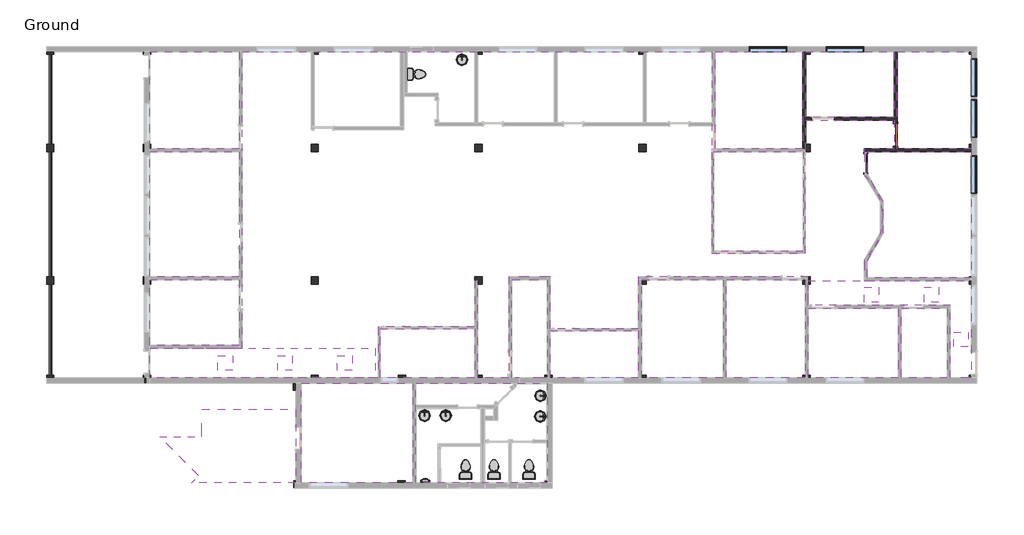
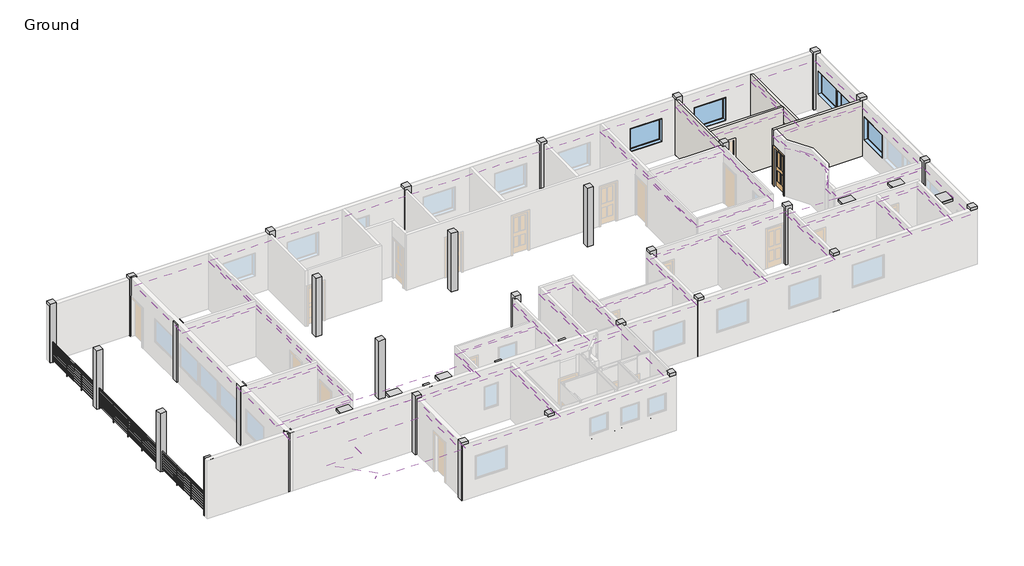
# One storey, part 4 of 4: 34 columns, 21 coverings, 10 flow terminals, 6 light fixtures, 5 windows, 4 walls, 3 railings, 2 doors.
"""IFC4 building model written with IfcOpenShell, lengths in millimetres."""

from ifc_helpers import new_model, si_unit, point, frame, frame_2d, origin, place, context, project, spatial, polyline, circle_curve, trimmed, segment, composite_curve, outline, extrude, faceted_brep, transform, mapped, element, save
from components import concrete_square_column_12_x_12_d780e21f, door_43f271b1, door_bfc1a142, m_toilet_domestic_3d_m_toilet_domestic_3d_5cb52bd4, m_toilet_domestic_3d_m_toilet_domestic_3d_183bbd19, flow_terminal_5184717d, urinal_wall_3d_urinal_wall_3d_aeedfa41, m_troffer_lens_0600_x_0600mm_2_lamp_a75f89fe, guardrail_pipe_4b02b070, guardrail_pipe_bb2e5a77, guardrail_pipe_0a43caf4, window_a0bf6c86

model = new_model("IFC4")

# Units and contexts
model_context = context("Model", 3, world=origin())
ifc_project = project(units=[si_unit("LENGTHUNIT", "METRE", prefix="MILLI")], contexts=[model_context])

# Site, building, storey
site = spatial("IfcSite", under=ifc_project)
building = spatial("IfcBuilding", under=site)
storey = spatial("IfcBuildingStorey", under=building, Name="Ground", Elevation=0.0)

# Columns
placement = place(None, origin())
concrete_square_column_12_x_12_shape = concrete_square_column_12_x_12_d780e21f(model_context)
element("IfcColumn", 1, ObjectType="Concrete-Square-Column : 12 x 12", at=placement, inside=storey, context=model_context, shape_type="MappedRepresentation", body=[
    mapped(concrete_square_column_12_x_12_shape, transform((-39928.402824, 22361.49779, 0.0), x_axis=(1.0, 0.0, 0.0), y_axis=(0.0, 1.0, 0.0), z_axis=(0.0, 0.0, 1.0))),
])
element("IfcColumn", 2, ObjectType="Concrete-Square-Column : 12 x 12", at=placement, inside=storey, context=model_context, shape_type="MappedRepresentation", body=[
    mapped(concrete_square_column_12_x_12_shape, transform((-33070.402824, 22361.49779, 0.0), x_axis=(1.0, 0.0, 0.0), y_axis=(0.0, 1.0, 0.0), z_axis=(0.0, 0.0, 1.0))),
])
element("IfcColumn", 3, ObjectType="Concrete-Square-Column : 12 x 12", at=placement, inside=storey, context=model_context, shape_type="MappedRepresentation", body=[
    mapped(concrete_square_column_12_x_12_shape, transform((-26364.802824, 22361.49779, 0.0), x_axis=(1.0, 0.0, 0.0), y_axis=(0.0, 1.0, 0.0), z_axis=(0.0, 0.0, 1.0))),
])
element("IfcColumn", 4, ObjectType="Concrete-Square-Column : 12 x 12", at=placement, inside=storey, context=model_context, shape_type="MappedRepresentation", body=[
    mapped(concrete_square_column_12_x_12_shape, transform((-19659.202824, 22361.49779, 0.0), x_axis=(1.0, 0.0, 0.0), y_axis=(0.0, 1.0, 0.0), z_axis=(0.0, 0.0, 1.0))),
])
element("IfcColumn", 5, ObjectType="Concrete-Square-Column : 12 x 12", at=placement, inside=storey, context=model_context, shape_type="MappedRepresentation", body=[
    mapped(concrete_square_column_12_x_12_shape, transform((-12953.602824, 22361.49779, 0.0), x_axis=(1.0, 0.0, 0.0), y_axis=(0.0, 1.0, 0.0), z_axis=(0.0, 0.0, 1.0))),
])
element("IfcColumn", 6, ObjectType="Concrete-Square-Column : 12 x 12", at=placement, inside=storey, context=model_context, shape_type="MappedRepresentation", body=[
    mapped(concrete_square_column_12_x_12_shape, transform((-6151.165324, 22361.49779, 0.0), x_axis=(1.0, 0.0, 0.0), y_axis=(0.0, 1.0, 0.0), z_axis=(0.0, 0.0, 1.0))),
])
element("IfcColumn", 7, ObjectType="Concrete-Square-Column : 12 x 12", at=placement, inside=storey, context=model_context, shape_type="MappedRepresentation", body=[
    mapped(concrete_square_column_12_x_12_shape, transform((-39928.402824, 18378.46029, 0.0), x_axis=(1.0, 0.0, 0.0), y_axis=(0.0, 1.0, 0.0), z_axis=(0.0, 0.0, 1.0))),
])
element("IfcColumn", 8, ObjectType="Concrete-Square-Column : 12 x 12", at=placement, inside=storey, context=model_context, shape_type="MappedRepresentation", body=[
    mapped(concrete_square_column_12_x_12_shape, transform((-39928.402824, 12965.08529, 0.0), x_axis=(1.0, 0.0, 0.0), y_axis=(0.0, 1.0, 0.0), z_axis=(0.0, 0.0, 1.0))),
])
element("IfcColumn", 9, ObjectType="Concrete-Square-Column : 12 x 12", at=placement, inside=storey, context=model_context, shape_type="MappedRepresentation", body=[
    mapped(concrete_square_column_12_x_12_shape, transform((-39928.402824, 8918.54779, 0.0), x_axis=(1.0, 0.0, 0.0), y_axis=(0.0, 1.0, 0.0), z_axis=(0.0, 0.0, 1.0))),
])
element("IfcColumn", 10, ObjectType="Concrete-Square-Column : 12 x 12", at=placement, inside=storey, context=model_context, shape_type="MappedRepresentation", body=[
    mapped(concrete_square_column_12_x_12_shape, transform((-33070.402824, 8918.54779, 0.0), x_axis=(1.0, 0.0, 0.0), y_axis=(0.0, 1.0, 0.0), z_axis=(0.0, 0.0, 1.0))),
])
element("IfcColumn", 11, ObjectType="Concrete-Square-Column : 12 x 12", at=placement, inside=storey, context=model_context, shape_type="MappedRepresentation", body=[
    mapped(concrete_square_column_12_x_12_shape, transform((-33070.402824, 12965.08529, 0.0), x_axis=(1.0, 0.0, 0.0), y_axis=(0.0, 1.0, 0.0), z_axis=(0.0, 0.0, 1.0))),
])
element("IfcColumn", 12, ObjectType="Concrete-Square-Column : 12 x 12", at=placement, inside=storey, context=model_context, shape_type="MappedRepresentation", body=[
    mapped(concrete_square_column_12_x_12_shape, transform((-26364.802824, 12965.08529, 0.0), x_axis=(1.0, 0.0, 0.0), y_axis=(0.0, 1.0, 0.0), z_axis=(0.0, 0.0, 1.0))),
])
element("IfcColumn", 13, ObjectType="Concrete-Square-Column : 12 x 12", at=placement, inside=storey, context=model_context, shape_type="MappedRepresentation", body=[
    mapped(concrete_square_column_12_x_12_shape, transform((-26364.802824, 8918.54779, 0.0), x_axis=(1.0, 0.0, 0.0), y_axis=(0.0, 1.0, 0.0), z_axis=(0.0, 0.0, 1.0))),
])
element("IfcColumn", 14, ObjectType="Concrete-Square-Column : 12 x 12", at=placement, inside=storey, context=model_context, shape_type="MappedRepresentation", body=[
    mapped(concrete_square_column_12_x_12_shape, transform((-19659.202824, 8918.54779, 0.0), x_axis=(1.0, 0.0, 0.0), y_axis=(0.0, 1.0, 0.0), z_axis=(0.0, 0.0, 1.0))),
])
element("IfcColumn", 15, ObjectType="Concrete-Square-Column : 12 x 12", at=placement, inside=storey, context=model_context, shape_type="MappedRepresentation", body=[
    mapped(concrete_square_column_12_x_12_shape, transform((-19659.202824, 12965.08529, 0.0), x_axis=(1.0, 0.0, 0.0), y_axis=(0.0, 1.0, 0.0), z_axis=(0.0, 0.0, 1.0))),
])
element("IfcColumn", 16, ObjectType="Concrete-Square-Column : 12 x 12", at=placement, inside=storey, context=model_context, shape_type="MappedRepresentation", body=[
    mapped(concrete_square_column_12_x_12_shape, transform((-12953.602824, 12965.08529, 0.0), x_axis=(1.0, 0.0, 0.0), y_axis=(0.0, 1.0, 0.0), z_axis=(0.0, 0.0, 1.0))),
])
element("IfcColumn", 17, ObjectType="Concrete-Square-Column : 12 x 12", at=placement, inside=storey, context=model_context, shape_type="MappedRepresentation", body=[
    mapped(concrete_square_column_12_x_12_shape, transform((-12953.602824, 8918.54779, 0.0), x_axis=(1.0, 0.0, 0.0), y_axis=(0.0, 1.0, 0.0), z_axis=(0.0, 0.0, 1.0))),
])
element("IfcColumn", 18, ObjectType="Concrete-Square-Column : 12 x 12", at=placement, inside=storey, context=model_context, shape_type="MappedRepresentation", body=[
    mapped(concrete_square_column_12_x_12_shape, transform((-6151.165324, 8918.54779, 0.0), x_axis=(1.0, 0.0, 0.0), y_axis=(0.0, 1.0, 0.0), z_axis=(0.0, 0.0, 1.0))),
])
element("IfcColumn", 19, ObjectType="Concrete-Square-Column : 12 x 12", at=placement, inside=storey, context=model_context, shape_type="MappedRepresentation", body=[
    mapped(concrete_square_column_12_x_12_shape, transform((-6151.165324, 12965.08529, 0.0), x_axis=(1.0, 0.0, 0.0), y_axis=(0.0, 1.0, 0.0), z_axis=(0.0, 0.0, 1.0))),
])
element("IfcColumn", 20, ObjectType="Concrete-Square-Column : 12 x 12", at=placement, inside=storey, context=model_context, shape_type="MappedRepresentation", body=[
    mapped(concrete_square_column_12_x_12_shape, transform((-6151.165324, 18378.46029, 0.0), x_axis=(1.0, 0.0, 0.0), y_axis=(0.0, 1.0, 0.0), z_axis=(0.0, 0.0, 1.0))),
])
element("IfcColumn", 21, ObjectType="Concrete-Square-Column : 12 x 12", at=placement, inside=storey, context=model_context, shape_type="MappedRepresentation", body=[
    mapped(concrete_square_column_12_x_12_shape, transform((-12953.602824, 18378.46029, 0.0), x_axis=(1.0, 0.0, 0.0), y_axis=(0.0, 1.0, 0.0), z_axis=(0.0, 0.0, 1.0))),
])
element("IfcColumn", 22, ObjectType="Concrete-Square-Column : 12 x 12", at=placement, inside=storey, context=model_context, shape_type="MappedRepresentation", body=[
    mapped(concrete_square_column_12_x_12_shape, transform((-19659.202824, 18378.46029, 0.0), x_axis=(1.0, 0.0, 0.0), y_axis=(0.0, 1.0, 0.0), z_axis=(0.0, 0.0, 1.0))),
])
element("IfcColumn", 23, ObjectType="Concrete-Square-Column : 12 x 12", at=placement, inside=storey, context=model_context, shape_type="MappedRepresentation", body=[
    mapped(concrete_square_column_12_x_12_shape, transform((-26364.802824, 18378.46029, 0.0), x_axis=(1.0, 0.0, 0.0), y_axis=(0.0, 1.0, 0.0), z_axis=(0.0, 0.0, 1.0))),
])
element("IfcColumn", 24, ObjectType="Concrete-Square-Column : 12 x 12", at=placement, inside=storey, context=model_context, shape_type="MappedRepresentation", body=[
    mapped(concrete_square_column_12_x_12_shape, transform((-33070.402824, 18378.46029, 0.0), x_axis=(1.0, 0.0, 0.0), y_axis=(0.0, 1.0, 0.0), z_axis=(0.0, 0.0, 1.0))),
])
element("IfcColumn", 25, ObjectType="Concrete-Square-Column : 12 x 12", at=placement, inside=storey, context=model_context, shape_type="MappedRepresentation", body=[
    mapped(concrete_square_column_12_x_12_shape, transform((-43890.802824, 8918.54779, 0.0), x_axis=(1.0, 0.0, 0.0), y_axis=(0.0, 1.0, 0.0), z_axis=(0.0, 0.0, 1.0))),
])
element("IfcColumn", 26, ObjectType="Concrete-Square-Column : 12 x 12", at=placement, inside=storey, context=model_context, shape_type="MappedRepresentation", body=[
    mapped(concrete_square_column_12_x_12_shape, transform((-43890.802824, 12965.08529, 0.0), x_axis=(1.0, 0.0, 0.0), y_axis=(0.0, 1.0, 0.0), z_axis=(0.0, 0.0, 1.0))),
])
element("IfcColumn", 27, ObjectType="Concrete-Square-Column : 12 x 12", at=placement, inside=storey, context=model_context, shape_type="MappedRepresentation", body=[
    mapped(concrete_square_column_12_x_12_shape, transform((-43890.802824, 18378.46029, 0.0), x_axis=(1.0, 0.0, 0.0), y_axis=(0.0, 1.0, 0.0), z_axis=(0.0, 0.0, 1.0))),
])
element("IfcColumn", 28, ObjectType="Concrete-Square-Column : 12 x 12", at=placement, inside=storey, context=model_context, shape_type="MappedRepresentation", body=[
    mapped(concrete_square_column_12_x_12_shape, transform((-43890.802824, 22361.49779, 0.0), x_axis=(1.0, 0.0, 0.0), y_axis=(0.0, 1.0, 0.0), z_axis=(0.0, 0.0, 1.0))),
])
element("IfcColumn", 29, ObjectType="Concrete-Square-Column : 12 x 12", at=placement, inside=storey, context=model_context, shape_type="MappedRepresentation", body=[
    mapped(concrete_square_column_12_x_12_shape, transform((-23512.065324, 8918.54779, 0.0), x_axis=(1.0, 0.0, 0.0), y_axis=(0.0, 1.0, 0.0), z_axis=(0.0, 0.0, 1.0))),
])
element("IfcColumn", 30, ObjectType="Concrete-Square-Column : 12 x 12", at=placement, inside=storey, context=model_context, shape_type="MappedRepresentation", body=[
    mapped(concrete_square_column_12_x_12_shape, transform((-23512.065324, 4621.18529, 0.0), x_axis=(1.0, 0.0, 0.0), y_axis=(0.0, 1.0, 0.0), z_axis=(0.0, 0.0, 1.0))),
])
element("IfcColumn", 31, ObjectType="Concrete-Square-Column : 12 x 12", at=placement, inside=storey, context=model_context, shape_type="MappedRepresentation", body=[
    mapped(concrete_square_column_12_x_12_shape, transform((-29508.052824, 8918.54779, 0.0), x_axis=(1.0, 0.0, 0.0), y_axis=(0.0, 1.0, 0.0), z_axis=(0.0, 0.0, 1.0))),
])
element("IfcColumn", 32, ObjectType="Concrete-Square-Column : 12 x 12", at=placement, inside=storey, context=model_context, shape_type="MappedRepresentation", body=[
    mapped(concrete_square_column_12_x_12_shape, transform((-33791.127824, 8613.74779, 0.0), x_axis=(1.0, 0.0, 0.0), y_axis=(0.0, 1.0, 0.0), z_axis=(0.0, 0.0, 1.0))),
])
element("IfcColumn", 33, ObjectType="Concrete-Square-Column : 12 x 12", at=placement, inside=storey, context=model_context, shape_type="MappedRepresentation", body=[
    mapped(concrete_square_column_12_x_12_shape, transform((-29516.8878988, 4621.18529, 0.0), x_axis=(1.0, 0.0, 0.0), y_axis=(0.0, 1.0, 0.0), z_axis=(0.0, 0.0, 1.0))),
])
element("IfcColumn", 34, ObjectType="Concrete-Square-Column : 12 x 12", at=placement, inside=storey, context=model_context, shape_type="MappedRepresentation", body=[
    mapped(concrete_square_column_12_x_12_shape, transform((-33784.0878988, 4621.18529, 0.0), x_axis=(1.0, 0.0, 0.0), y_axis=(0.0, 1.0, 0.0), z_axis=(0.0, 0.0, 1.0))),
])

# Coverings
element("IfcCovering", 35, ObjectType="2' x 4' ACT System", at=placement, inside=storey, context=model_context, shape_type="SweptSolid", body=[
    extrude(outline(polyline([(-39818.865324, 18349.88529), (-39818.865324, 22307.52279), (-36166.027824, 22307.52279), (-36166.027824, 18349.88529), (-39818.865324, 18349.88529)])), frame((0.0, 0.0, 2514.6), z_axis=(0.0, 0.0, 1.0), x_axis=(1.0, 0.0, 0.0)), (0.0, 0.0, 1.0), 57.15),
])
element("IfcCovering", 36, ObjectType="2' x 4' ACT System", at=placement, inside=storey, context=model_context, shape_type="SweptSolid", body=[
    extrude(outline(polyline([(-36166.027824, 13117.48529), (-39818.865324, 13117.48529), (-39818.865324, 18226.06029), (-36166.027824, 18226.06029), (-36166.027824, 13117.48529)])), frame((0.0, 0.0, 2514.6), z_axis=(0.0, 0.0, 1.0), x_axis=(1.0, 0.0, 0.0)), (0.0, 0.0, 1.0), 57.15),
])
element("IfcCovering", 37, ObjectType="2' x 4' ACT System", at=placement, inside=storey, context=model_context, shape_type="SweptSolid", body=[
    extrude(outline(polyline([(-36166.027824, 10304.9644567), (-39818.865324, 10304.9644567), (-39818.865324, 12993.66029), (-36166.027824, 12993.66029), (-36166.027824, 10304.9644567)])), frame((0.0, 0.0, 2514.6), z_axis=(0.0, 0.0, 1.0), x_axis=(1.0, 0.0, 0.0)), (0.0, 0.0, 1.0), 57.15),
])
element("IfcCovering", 38, ObjectType="2' x 4' ACT System", at=placement, inside=storey, context=model_context, shape_type="SweptSolid", body=[
    extrude(outline(polyline([(-16688.990324, 22307.52279), (-13106.002824, 22307.52279), (-13106.002824, 18343.53529), (-16688.990324, 18343.53529), (-16688.990324, 22307.52279)])), frame((0.0, 0.0, 2514.6), z_axis=(0.0, 0.0, 1.0), x_axis=(1.0, 0.0, 0.0)), (0.0, 0.0, 1.0), 57.15),
])
element("IfcCovering", 39, ObjectType="2' x 4' ACT System", at=placement, inside=storey, context=model_context, shape_type="SweptSolid", body=[
    extrude(outline(polyline([(-12982.177824, 22307.52279), (-9372.202824, 22307.52279), (-9372.202824, 19632.58529), (-12982.177824, 19632.58529), (-12982.177824, 22307.52279)])), frame((0.0, 0.0, 2514.6), z_axis=(0.0, 0.0, 1.0), x_axis=(1.0, 0.0, 0.0)), (0.0, 0.0, 1.0), 57.15),
])
element("IfcCovering", 40, ObjectType="2' x 4' ACT System", at=placement, inside=storey, context=model_context, shape_type="SweptSolid", body=[
    extrude(outline(polyline([(-9248.377824, 22307.52279), (-6205.140324, 22307.52279), (-6205.140324, 18343.53529), (-9248.377824, 18343.53529), (-9248.377824, 22307.52279)])), frame((0.0, 0.0, 2514.6), z_axis=(0.0, 0.0, 1.0), x_axis=(1.0, 0.0, 0.0)), (0.0, 0.0, 1.0), 57.15),
])
element("IfcCovering", 41, ObjectType="2' x 4' ACT System", at=placement, inside=storey, context=model_context, shape_type="SweptSolid", body=[
    extrude(outline(composite_curve([segment(polyline([(-10467.577824, 18219.71029), (-6205.140324, 18219.71029), (-6205.140324, 13073.03529), (-10467.577824, 13073.03529), (-10467.577824, 13753.2813276)]), True, "CONTINUOUS"), segment(trimmed(circle_curve(frame_2d((-12218.244142, 15538.42279)), 2500.3125), [point((-10467.577824, 13753.2813276))], [point((-10467.577824, 17323.5642525))], True, "CARTESIAN"), True, "CONTINUOUS"), segment(polyline([(-10467.577824, 17323.5642525), (-10467.577824, 18219.71029)]), True, "CONTINUOUS")], self_intersect=False)), frame((0.0, 0.0, 2514.6), z_axis=(0.0, 0.0, 1.0), x_axis=(1.0, 0.0, 0.0)), (0.0, 0.0, 1.0), 57.15),
])
element("IfcCovering", 42, ObjectType="2' x 4' ACT System", at=placement, inside=storey, context=model_context, shape_type="SweptSolid", body=[
    extrude(outline(polyline([(-16741.377824, 14150.94779), (-16741.377824, 18219.71029), (-13083.777824, 18219.71029), (-13083.777824, 14150.94779), (-16741.377824, 14150.94779)])), frame((0.0, 0.0, 2514.6), z_axis=(0.0, 0.0, 1.0), x_axis=(1.0, 0.0, 0.0)), (0.0, 0.0, 1.0), 57.15),
])
element("IfcCovering", 43, ObjectType="2' x 4' ACT System", at=placement, inside=storey, context=model_context, shape_type="SweptSolid", body=[
    extrude(outline(polyline([(-16231.790324, 12993.66029), (-13015.515324, 12993.66029), (-13015.515324, 8972.52279), (-16231.790324, 8972.52279), (-16231.790324, 12993.66029)])), frame((0.0, 0.0, 2514.6), z_axis=(0.0, 0.0, 1.0), x_axis=(1.0, 0.0, 0.0)), (0.0, 0.0, 1.0), 57.15),
])
element("IfcCovering", 44, ObjectType="2' x 4' ACT System", at=placement, inside=storey, context=model_context, shape_type="SweptSolid", body=[
    extrude(outline(polyline([(-19703.652824, 12993.66029), (-16355.615324, 12993.66029), (-16355.615324, 8972.52279), (-19703.652824, 8972.52279), (-19703.652824, 12993.66029)])), frame((0.0, 0.0, 2514.6), z_axis=(0.0, 0.0, 1.0), x_axis=(1.0, 0.0, 0.0)), (0.0, 0.0, 1.0), 57.15),
])
element("IfcCovering", 45, ObjectType="2' x 4' ACT System", at=placement, inside=storey, context=model_context, shape_type="SweptSolid", body=[
    extrude(outline(polyline([(-9207.102824, 8972.52279), (-12891.690324, 8972.52279), (-12891.690324, 11818.91029), (-9207.102824, 11818.91029), (-9207.102824, 8972.52279)])), frame((0.0, 0.0, 2514.6), z_axis=(0.0, 0.0, 1.0), x_axis=(1.0, 0.0, 0.0)), (0.0, 0.0, 1.0), 57.15),
])
element("IfcCovering", 46, ObjectType="2' x 4' ACT System", at=placement, inside=storey, context=model_context, shape_type="SweptSolid", body=[
    extrude(outline(polyline([(-7195.740324, 8972.52279), (-9083.277824, 8972.52279), (-9083.277824, 11818.91029), (-7195.740324, 11818.91029), (-7195.740324, 8972.52279)])), frame((0.0, 0.0, 2514.6), z_axis=(0.0, 0.0, 1.0), x_axis=(1.0, 0.0, 0.0)), (0.0, 0.0, 1.0), 57.15),
])
element("IfcCovering", 47, ObjectType="2' x 4' ACT System", at=placement, inside=storey, context=model_context, shape_type="SweptSolid", body=[
    extrude(outline(polyline([(-23432.690324, 10894.98529), (-19827.477824, 10894.98529), (-19827.477824, 8972.52279), (-23432.690324, 8972.52279), (-23432.690324, 10894.98529)])), frame((0.0, 0.0, 2514.6), z_axis=(0.0, 0.0, 1.0), x_axis=(1.0, 0.0, 0.0)), (0.0, 0.0, 1.0), 57.15),
])
element("IfcCovering", 48, ObjectType="2' x 4' ACT System", at=placement, inside=storey, context=model_context, shape_type="SweptSolid", body=[
    extrude(outline(polyline([(-25020.190324, 12993.66029), (-23556.515324, 12993.66029), (-23556.515324, 8972.52279), (-24701.102824, 8972.52279), (-25020.190324, 8972.52279), (-25020.190324, 12993.66029)])), frame((0.0, 0.0, 2514.6), z_axis=(0.0, 0.0, 1.0), x_axis=(1.0, 0.0, 0.0)), (0.0, 0.0, 1.0), 57.15),
])
element("IfcCovering", 49, ObjectType="2' x 4' ACT System", at=placement, inside=storey, context=model_context, shape_type="SweptSolid", body=[
    extrude(outline(polyline([(-30397.052824, 10987.06029), (-26533.077824, 10987.06029), (-26533.077824, 8972.52279), (-30397.052824, 8972.52279), (-30397.052824, 10987.06029)])), frame((0.0, 0.0, 2514.6), z_axis=(0.0, 0.0, 1.0), x_axis=(1.0, 0.0, 0.0)), (0.0, 0.0, 1.0), 57.15),
])
element("IfcCovering", 50, ObjectType="2' x 4' ACT System", at=placement, inside=storey, context=model_context, shape_type="SweptSolid", body=[
    extrude(outline(polyline([(-29065.140324, 8753.44779), (-29065.140324, 4675.16029), (-33632.377824, 4675.16029), (-33632.377824, 8753.44779), (-29065.140324, 8753.44779)])), frame((0.0, 0.0, 2514.6), z_axis=(0.0, 0.0, 1.0), x_axis=(1.0, 0.0, 0.0)), (0.0, 0.0, 1.0), 57.15),
])
element("IfcCovering", 51, ObjectType="2' x 4' ACT System", at=placement, inside=storey, context=model_context, shape_type="SweptSolid", body=[
    extrude(outline(polyline([(-33853.040324, 7686.64779), (-33853.040324, 4675.16029), (-38096.1227235, 4675.16029), (-37812.8000173, 4958.4829962), (-39418.5074722, 6564.1904511), (-37685.265324, 6564.1904511), (-37685.265324, 7686.64779), (-33853.040324, 7686.64779)])), frame((0.0, 0.0, 2514.6), z_axis=(0.0, 0.0, 1.0), x_axis=(1.0, 0.0, 0.0)), (0.0, 0.0, 1.0), 57.15),
])
element("IfcCovering", 52, ObjectType="2' x 4' ACT System", at=placement, inside=storey, context=model_context, shape_type="SweptSolid", body=[
    extrude(outline(polyline([(-12891.690324, 12949.21029), (-6205.140324, 12949.21029), (-6205.140324, 8972.52279), (-7071.915324, 8972.52279), (-7071.915324, 11942.73529), (-12891.690324, 11942.73529), (-12891.690324, 12949.21029)]), holes=[polyline([(-9992.2426179, 12673.77904), (-10592.2426179, 12673.77904), (-10592.2426179, 12073.77904), (-9992.2426179, 12073.77904), (-9992.2426179, 12673.77904)]), polyline([(-7544.2426179, 12673.77904), (-8144.2426179, 12673.77904), (-8144.2426179, 12073.77904), (-7544.2426179, 12073.77904), (-7544.2426179, 12673.77904)]), polyline([(-6334.6426179, 10844.97904), (-6934.6426179, 10844.97904), (-6934.6426179, 10244.97904), (-6334.6426179, 10244.97904), (-6334.6426179, 10844.97904)])]), frame((0.0, 0.0, 2514.6), z_axis=(0.0, 0.0, 1.0), x_axis=(1.0, 0.0, 0.0)), (0.0, 0.0, 1.0), 57.15),
])
element("IfcCovering", 53, ObjectType="2' x 4' ACT System", at=placement, inside=storey, context=model_context, shape_type="SweptSolid", body=[
    extrude(outline(polyline([(-30589.140324, 10181.1394567), (-30589.140324, 8972.52279), (-39818.865324, 8972.52279), (-39818.865324, 10181.1394567), (-30589.140324, 10181.1394567)]), holes=[polyline([(-33981.627824, 9877.32279), (-34581.627824, 9877.32279), (-34581.627824, 9277.32279), (-33981.627824, 9277.32279), (-33981.627824, 9877.32279)]), polyline([(-31543.227824, 9877.32279), (-32143.227824, 9877.32279), (-32143.227824, 9277.32279), (-31543.227824, 9277.32279), (-31543.227824, 9877.32279)]), polyline([(-36432.802824, 9881.5561234), (-37032.802824, 9881.5561234), (-37032.802824, 9281.5561234), (-36432.802824, 9281.5561234), (-36432.802824, 9881.5561234)])]), frame((0.0, 0.0, 2514.6), z_axis=(0.0, 0.0, 1.0), x_axis=(1.0, 0.0, 0.0)), (0.0, 0.0, 1.0), 57.15),
])
element("IfcCovering", 54, ObjectType="2' x 4' ACT System", at=placement, inside=storey, context=model_context, shape_type="SweptSolid", body=[
    extrude(outline(polyline([(-23566.040324, 8753.44779), (-23566.040324, 4675.16029), (-28941.315324, 4675.16029), (-28941.315324, 8753.44779), (-23566.040324, 8753.44779)])), frame((0.0, 0.0, 2514.6), z_axis=(0.0, 0.0, 1.0), x_axis=(1.0, 0.0, 0.0)), (0.0, 0.0, 1.0), 57.15),
])
element("IfcCovering", 55, ObjectType="2' x 4' ACT System", at=placement, inside=storey, context=model_context, shape_type="SweptSolid", body=[
    extrude(outline(composite_curve([segment(polyline([(-30476.427824, 8972.52279), (-39818.865324, 8972.52279), (-39818.865324, 10181.1394567), (-36042.202824, 10181.1394567), (-36042.202824, 22307.52279), (-16820.752824, 22307.52279), (-16820.752824, 14071.57279), (-13004.402824, 14071.57279), (-13004.402824, 18281.62279), (-12982.177824, 18281.62279), (-12982.177824, 19508.76029), (-9372.202824, 19508.76029), (-9372.202824, 18343.53529), (-10591.402824, 18343.53529), (-10591.402824, 17270.785386)]), True, "CONTINUOUS"), segment(trimmed(circle_curve(frame_2d((-12218.244142, 15538.42279)), 2376.4875), [point((-10591.402824, 17270.785386))], [point((-10591.402824, 13806.060194))], False, "CARTESIAN"), True, "CONTINUOUS"), segment(polyline([(-10591.402824, 13806.060194), (-10591.402824, 12949.21029), (-6205.140324, 12949.21029), (-6205.140324, 8972.52279), (-7071.915324, 8972.52279), (-7071.915324, 11942.73529), (-12891.690324, 11942.73529), (-12891.690324, 13117.48529), (-19827.477824, 13117.48529), (-19827.477824, 10974.36029), (-23432.690324, 10974.36029), (-23432.690324, 13117.48529), (-25144.015324, 13117.48529), (-25144.015324, 8972.52279), (-26409.252824, 8972.52279), (-26409.252824, 12947.62279), (-26533.077824, 12947.62279), (-26533.077824, 11066.43529), (-30476.427824, 11066.43529), (-30476.427824, 8972.52279)]), True, "CONTINUOUS")], self_intersect=False)), frame((0.0, 0.0, 2514.6), z_axis=(0.0, 0.0, 1.0), x_axis=(1.0, 0.0, 0.0)), (0.0, 0.0, 1.0), 57.15),
])

# Doors
door_shape = door_43f271b1(model_context)
element("IfcDoor", 56, ObjectType="Single-Flush : 36\" x 80\" - D1", at=placement, inside=storey, context=model_context, shape_type="MappedRepresentation", body=[
    mapped(door_shape, transform((-9310.290324, 18910.27279, 0.0), x_axis=(0.0, -1.0, 0.0), y_axis=(1.0, 0.0, 0.0), z_axis=(0.0, 0.0, 1.0))),
])
door_2_shape = door_bfc1a142(model_context)
element("IfcDoor", 57, ObjectType="Single-Glass 3 : 30\" x 80\" - D3", at=placement, inside=storey, context=model_context, shape_type="MappedRepresentation", body=[
    mapped(door_2_shape, transform((-10529.490324, 17754.57279, 0.0), x_axis=(0.0, 1.0, 0.0), y_axis=(-1.0, 0.0, 0.0), z_axis=(0.0, 0.0, 1.0))),
])

# Flow terminals
m_toilet_domestic_3d_m_toilet_domestic_3d_shape = m_toilet_domestic_3d_m_toilet_domestic_3d_5cb52bd4(model_context)
m_toilet_domestic_3d_m_toilet_domestic_3d_2_shape = m_toilet_domestic_3d_m_toilet_domestic_3d_183bbd19(model_context)
element("IfcFlowTerminal", 58, ObjectType="M_Toilet-Domestic-3D : M_Toilet-Domestic-3D", at=placement, inside=storey, context=model_context, shape_type="MappedRepresentation", body=[
    mapped(m_toilet_domestic_3d_m_toilet_domestic_3d_shape, transform((-28830.190324, 21393.12279, 0.0), x_axis=(0.0, 1.0, 0.0), y_axis=(-1.0, 0.0, 0.0), z_axis=(0.0, 0.0, 1.0))),
    mapped(m_toilet_domestic_3d_m_toilet_domestic_3d_2_shape, transform((-28830.190324, 21393.12279, 0.0), x_axis=(0.0, 1.0, 0.0), y_axis=(-1.0, 0.0, 0.0), z_axis=(0.0, 0.0, 1.0))),
])
element("IfcFlowTerminal", 59, ObjectType="M_Toilet-Domestic-3D : M_Toilet-Domestic-3D", at=placement, inside=storey, context=model_context, shape_type="MappedRepresentation", body=[
    mapped(m_toilet_domestic_3d_m_toilet_domestic_3d_shape, transform((-26898.202824, 5322.2563174, 0.0), x_axis=(-1.0, 0.0, 0.0), y_axis=(0.0, -1.0, 0.0), z_axis=(0.0, 0.0, 1.0))),
    mapped(m_toilet_domestic_3d_m_toilet_domestic_3d_2_shape, transform((-26898.202824, 5322.2563174, 0.0), x_axis=(-1.0, 0.0, 0.0), y_axis=(0.0, -1.0, 0.0), z_axis=(0.0, 0.0, 1.0))),
])
element("IfcFlowTerminal", 60, ObjectType="M_Toilet-Domestic-3D : M_Toilet-Domestic-3D", at=placement, inside=storey, context=model_context, shape_type="MappedRepresentation", body=[
    mapped(m_toilet_domestic_3d_m_toilet_domestic_3d_shape, transform((-25738.8560212, 5322.2563174, 0.0), x_axis=(-1.0, 0.0, 0.0), y_axis=(0.0, -1.0, 0.0), z_axis=(0.0, 0.0, 1.0))),
    mapped(m_toilet_domestic_3d_m_toilet_domestic_3d_2_shape, transform((-25738.8560212, 5322.2563174, 0.0), x_axis=(-1.0, 0.0, 0.0), y_axis=(0.0, -1.0, 0.0), z_axis=(0.0, 0.0, 1.0))),
])
element("IfcFlowTerminal", 61, ObjectType="M_Toilet-Domestic-3D : M_Toilet-Domestic-3D", at=placement, inside=storey, context=model_context, shape_type="MappedRepresentation", body=[
    mapped(m_toilet_domestic_3d_m_toilet_domestic_3d_shape, transform((-24305.021574, 5322.2563174, 0.0), x_axis=(-1.0, 0.0, 0.0), y_axis=(0.0, -1.0, 0.0), z_axis=(0.0, 0.0, 1.0))),
    mapped(m_toilet_domestic_3d_m_toilet_domestic_3d_2_shape, transform((-24305.021574, 5322.2563174, 0.0), x_axis=(-1.0, 0.0, 0.0), y_axis=(0.0, -1.0, 0.0), z_axis=(0.0, 0.0, 1.0))),
])
flow_terminal_shape = flow_terminal_5184717d(model_context)
element("IfcFlowTerminal", 62, ObjectType="Sink Vanity-Round : 19\" x 19\"", at=placement, inside=storey, context=model_context, shape_type="MappedRepresentation", body=[
    mapped(flow_terminal_shape, transform((-27147.2545646, 21903.5734981, 0.0), x_axis=(1.0, 0.0, 0.0), y_axis=(0.0, 1.0, 0.0), z_axis=(0.0, 0.0, 1.0))),
])
element("IfcFlowTerminal", 63, ObjectType="Sink Vanity-Round : 19\" x 19\"", at=placement, inside=storey, context=model_context, shape_type="MappedRepresentation", body=[
    mapped(flow_terminal_shape, transform((-23923.4157251, 8334.9557806, 0.0), x_axis=(0.0, -1.0, 0.0), y_axis=(1.0, 0.0, 0.0), z_axis=(0.0, 0.0, 1.0))),
])
element("IfcFlowTerminal", 64, ObjectType="Sink Vanity-Round : 19\" x 19\"", at=placement, inside=storey, context=model_context, shape_type="MappedRepresentation", body=[
    mapped(flow_terminal_shape, transform((-23929.1800826, 7491.1995306, 0.0), x_axis=(0.0, -1.0, 0.0), y_axis=(1.0, 0.0, 0.0), z_axis=(0.0, 0.0, 1.0))),
])
element("IfcFlowTerminal", 65, ObjectType="Sink Vanity-Round : 19\" x 19\"", at=placement, inside=storey, context=model_context, shape_type="MappedRepresentation", body=[
    mapped(flow_terminal_shape, transform((-27810.8295646, 7341.7828967, 0.0), x_axis=(1.0, 0.0, 0.0), y_axis=(0.0, 1.0, 0.0), z_axis=(0.0, 0.0, 1.0))),
])
element("IfcFlowTerminal", 66, ObjectType="Sink Vanity-Round : 19\" x 19\"", at=placement, inside=storey, context=model_context, shape_type="MappedRepresentation", body=[
    mapped(flow_terminal_shape, transform((-28674.4295646, 7341.7828967, 0.0), x_axis=(1.0, 0.0, 0.0), y_axis=(0.0, 1.0, 0.0), z_axis=(0.0, 0.0, 1.0))),
])
urinal_wall_3d_urinal_wall_3d_shape = urinal_wall_3d_urinal_wall_3d_aeedfa41(model_context)
element("IfcFlowTerminal", 67, ObjectType="Urinal-Wall-3D : Urinal-Wall-3D", at=placement, inside=storey, context=model_context, shape_type="MappedRepresentation", body=[
    mapped(urinal_wall_3d_urinal_wall_3d_shape, transform((-28443.3032242, 4565.62279, 0.0), x_axis=(1.0, 0.0, 0.0), y_axis=(0.0, 1.0, 0.0), z_axis=(0.0, 0.0, 1.0))),
])

# Light fixtures
m_troffer_lens_0600_x_0600mm_2_lamp_shape = m_troffer_lens_0600_x_0600mm_2_lamp_a75f89fe(model_context)
element("IfcLightFixture", 68, ObjectType="M_Troffer - Lens : 0600 x 0600mm (2 Lamp)", at=placement, inside=storey, context=model_context, shape_type="MappedRepresentation", body=[
    mapped(m_troffer_lens_0600_x_0600mm_2_lamp_shape, transform((-34262.9243225, 9636.7887221, 76.2), x_axis=(1.0, 0.0, 0.0), y_axis=(0.0, 1.0, 0.0), z_axis=(0.0, 0.0, 1.0))),
])
element("IfcLightFixture", 69, ObjectType="M_Troffer - Lens : 0600 x 0600mm (2 Lamp)", at=placement, inside=storey, context=model_context, shape_type="MappedRepresentation", body=[
    mapped(m_troffer_lens_0600_x_0600mm_2_lamp_shape, transform((-31824.5243225, 9636.7887221, 76.2), x_axis=(1.0, 0.0, 0.0), y_axis=(0.0, 1.0, 0.0), z_axis=(0.0, 0.0, 1.0))),
])
element("IfcLightFixture", 70, ObjectType="M_Troffer - Lens : 0600 x 0600mm (2 Lamp)", at=placement, inside=storey, context=model_context, shape_type="MappedRepresentation", body=[
    mapped(m_troffer_lens_0600_x_0600mm_2_lamp_shape, transform((-36714.0993225, 9641.0220555, 76.2), x_axis=(1.0, 0.0, 0.0), y_axis=(0.0, 1.0, 0.0), z_axis=(0.0, 0.0, 1.0))),
])
element("IfcLightFixture", 71, ObjectType="M_Troffer - Lens : 0600 x 0600mm (2 Lamp)", at=placement, inside=storey, context=model_context, shape_type="MappedRepresentation", body=[
    mapped(m_troffer_lens_0600_x_0600mm_2_lamp_shape, transform((-10273.5391163, 12433.2449721, 76.2), x_axis=(1.0, 0.0, 0.0), y_axis=(0.0, 1.0, 0.0), z_axis=(0.0, 0.0, 1.0))),
])
element("IfcLightFixture", 72, ObjectType="M_Troffer - Lens : 0600 x 0600mm (2 Lamp)", at=placement, inside=storey, context=model_context, shape_type="MappedRepresentation", body=[
    mapped(m_troffer_lens_0600_x_0600mm_2_lamp_shape, transform((-7825.5391163, 12433.2449721, 76.2), x_axis=(1.0, 0.0, 0.0), y_axis=(0.0, 1.0, 0.0), z_axis=(0.0, 0.0, 1.0))),
])
element("IfcLightFixture", 73, ObjectType="M_Troffer - Lens : 0600 x 0600mm (2 Lamp)", at=placement, inside=storey, context=model_context, shape_type="MappedRepresentation", body=[
    mapped(m_troffer_lens_0600_x_0600mm_2_lamp_shape, transform((-6615.9391163, 10604.4449721, 76.2), x_axis=(1.0, 0.0, 0.0), y_axis=(0.0, 1.0, 0.0), z_axis=(0.0, 0.0, 1.0))),
])

# Railings
guardrail_pipe_shape = guardrail_pipe_4b02b070(model_context)
element("IfcRailing", 74, ObjectType="Guardrail - Pipe", at=placement, inside=storey, context=model_context, shape_type="MappedRepresentation", body=[
    mapped(guardrail_pipe_shape, transform((0.0, 0.0, 0.0), x_axis=(1.0, 0.0, 0.0), y_axis=(0.0, 1.0, 0.0), z_axis=(0.0, 0.0, 1.0))),
])
guardrail_pipe_2_shape = guardrail_pipe_bb2e5a77(model_context)
element("IfcRailing", 75, ObjectType="Guardrail - Pipe", at=placement, inside=storey, context=model_context, shape_type="MappedRepresentation", body=[
    mapped(guardrail_pipe_2_shape, transform((0.0, 0.0, 0.0), x_axis=(1.0, 0.0, 0.0), y_axis=(0.0, 1.0, 0.0), z_axis=(0.0, 0.0, 1.0))),
])
guardrail_pipe_3_shape = guardrail_pipe_0a43caf4(model_context)
element("IfcRailing", 76, ObjectType="Guardrail - Pipe", at=placement, inside=storey, context=model_context, shape_type="MappedRepresentation", body=[
    mapped(guardrail_pipe_3_shape, transform((0.0, 0.0, 0.0), x_axis=(1.0, 0.0, 0.0), y_axis=(0.0, 1.0, 0.0), z_axis=(0.0, 0.0, 1.0))),
])

# Walls
element("IfcWall", 77, ObjectType="Interior - 5 1/2\" Partition (1-hr)", at=placement, inside=storey, context=model_context, shape_type="Brep", body=[
    faceted_brep([(-6205.140324, 18343.53529, 0.0), (-9248.377824, 18343.53529, 0.0), (-9372.202824, 18343.53529, 0.0), (-10591.402824, 18343.53529, 0.0), (-10591.402824, 18343.53529, 2895.6), (-9372.202824, 18343.53529, 2895.6), (-9248.377824, 18343.53529, 2895.6), (-6205.140324, 18343.53529, 2895.6), (-6205.140324, 18219.71029, 0.0), (-6205.140324, 18219.71029, 2895.6), (-10467.577824, 18219.71029, 2895.6), (-10591.402824, 18219.71029, 2895.6), (-10591.402824, 18219.71029, 0.0), (-10467.577824, 18219.71029, 0.0)], [[[0, 1, 2, 3, 4, 5, 6, 7]], [[8, 9, 10, 11, 12, 13]], [[3, 2, 1, 0, 8, 13, 12]], [[7, 6, 5, 4, 11, 10, 9]], [[4, 3, 12, 11]], [[0, 7, 9, 8]]]),
])
element("IfcWall", 78, ObjectType="Interior - 5 1/2\" Partition (1-hr)", at=placement, inside=storey, context=model_context, shape_type="Brep", body=[
    faceted_brep([(-9248.377824, 18343.53529, 0.0), (-9248.377824, 18453.07279, 0.0), (-9248.377824, 18453.07279, 2032.0), (-9248.377824, 19367.47279, 2032.0), (-9248.377824, 19367.47279, 0.0), (-9248.377824, 22307.52279, 0.0), (-9248.377824, 22307.52279, 2895.6), (-9248.377824, 18343.53529, 2895.6), (-9372.202824, 18453.07279, 2032.0), (-9372.202824, 18453.07279, 0.0), (-9372.202824, 18343.53529, 0.0), (-9372.202824, 18343.53529, 2895.6), (-9372.202824, 19508.76029, 2895.6), (-9372.202824, 19632.58529, 2895.6), (-9372.202824, 22307.52279, 2895.6), (-9372.202824, 22307.52279, 0.0), (-9372.202824, 19632.58529, 0.0), (-9372.202824, 19508.76029, 0.0), (-9372.202824, 19367.47279, 0.0), (-9372.202824, 19367.47279, 2032.0)], [[[0, 1, 2, 3, 4, 5, 6, 7]], [[8, 9, 10, 11, 12, 13, 14, 15, 16, 17, 18, 19]], [[10, 9, 1, 0]], [[18, 17, 16, 15, 5, 4]], [[7, 6, 14, 13, 12, 11]], [[6, 5, 15, 14]], [[0, 7, 11, 10]], [[2, 1, 9, 8]], [[3, 2, 8, 19]], [[4, 3, 19, 18]]]),
])
element("IfcWall", 79, ObjectType="Interior - 5 1/2\" Partition (1-hr)", at=placement, inside=storey, context=model_context, shape_type="SweptSolid", body=[
    extrude(outline(polyline([(0.0, -12982.177824), (0.0, -12731.352824), (2032.0, -12731.352824), (2032.0, -11816.952824), (0.0, -11816.952824), (0.0, -9372.202824), (2895.6, -9372.202824), (2895.6, -12982.177824), (0.0, -12982.177824)])), frame((0.0, 19508.76029, 0.0), z_axis=(0.0, 1.0, 0.0), x_axis=(0.0, 0.0, 1.0)), (0.0, 0.0, 1.0), 123.825),
])
element("IfcWall", 80, ObjectType="Interior - 5 1/2\" Partition (1-hr)", at=placement, inside=storey, context=model_context, shape_type="Brep", body=[
    faceted_brep([(-12982.177824, 18343.53529, 0.0), (-12982.177824, 19508.76029, 0.0), (-12982.177824, 19632.58529, 0.0), (-12982.177824, 22307.52279, 0.0), (-12982.177824, 22307.52279, 2895.6), (-12982.177824, 19632.58529, 2895.6), (-12982.177824, 19508.76029, 2895.6), (-12982.177824, 18343.53529, 2895.6), (-13106.002824, 18343.53529, 0.0), (-13106.002824, 18343.53529, 2895.6), (-13106.002824, 22307.52279, 2895.6), (-13106.002824, 22307.52279, 0.0)], [[[0, 1, 2, 3, 4, 5, 6, 7]], [[8, 9, 10, 11]], [[3, 2, 1, 0, 8, 11]], [[7, 6, 5, 4, 10, 9]], [[0, 7, 9, 8]], [[4, 3, 11, 10]]]),
])

# Windows
window_shape = window_a0bf6c86(model_context)
element("IfcWindow", 81, ObjectType="Fixed : 60\" x 48\" - W1", at=placement, inside=storey, context=model_context, shape_type="MappedRepresentation", body=[
    mapped(window_shape, transform((-14490.302824, 22417.06029, 0.0), x_axis=(1.0, 0.0, 0.0), y_axis=(0.0, 1.0, 0.0), z_axis=(0.0, 0.0, 1.0))),
])
element("IfcWindow", 82, ObjectType="Fixed : 60\" x 48\" - W1", at=placement, inside=storey, context=model_context, shape_type="MappedRepresentation", body=[
    mapped(window_shape, transform((-11340.702824, 22417.06029, 0.0), x_axis=(1.0, 0.0, 0.0), y_axis=(0.0, 1.0, 0.0), z_axis=(0.0, 0.0, 1.0))),
])
element("IfcWindow", 83, ObjectType="Fixed : 60\" x 48\" - W1", at=placement, inside=storey, context=model_context, shape_type="MappedRepresentation", body=[
    mapped(window_shape, transform((-6095.602824, 21215.32279, 0.0), x_axis=(0.0, -0.9999999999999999, 0.0), y_axis=(0.9999999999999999, 0.0, 0.0), z_axis=(0.0, 0.0, 1.0))),
])
element("IfcWindow", 84, ObjectType="Fixed : 60\" x 48\" - W1", at=placement, inside=storey, context=model_context, shape_type="MappedRepresentation", body=[
    mapped(window_shape, transform((-6095.602824, 19538.92279, 0.0), x_axis=(0.0, -0.9999999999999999, 0.0), y_axis=(0.9999999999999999, 0.0, 0.0), z_axis=(0.0, 0.0, 1.0))),
])
element("IfcWindow", 85, ObjectType="Fixed : 60\" x 48\" - W1", at=placement, inside=storey, context=model_context, shape_type="MappedRepresentation", body=[
    mapped(window_shape, transform((-6095.602824, 17252.92279, 0.0), x_axis=(0.0, -0.9999999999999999, 0.0), y_axis=(0.9999999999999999, 0.0, 0.0), z_axis=(0.0, 0.0, 1.0))),
])

save(model, "model.ifc")
